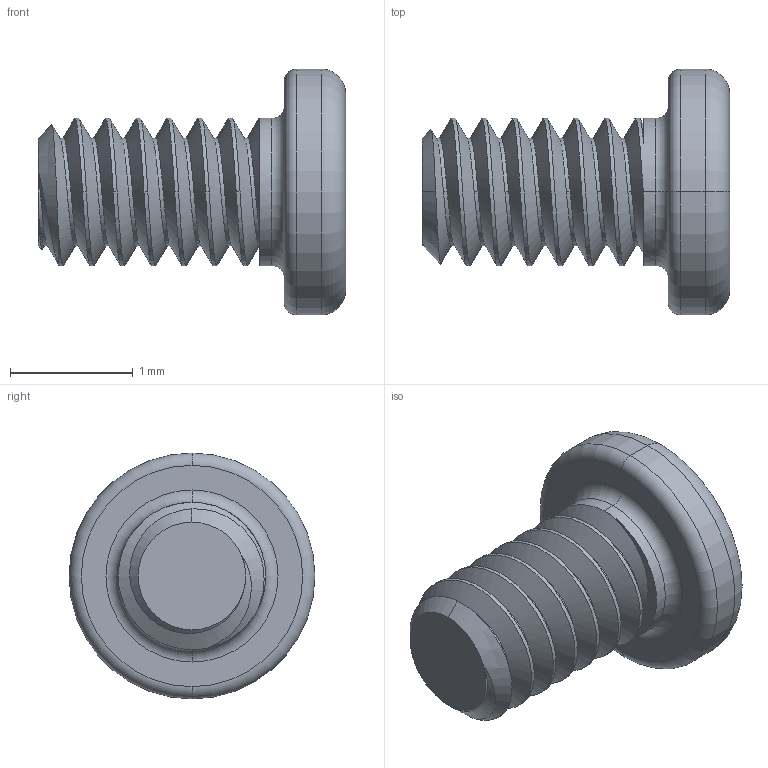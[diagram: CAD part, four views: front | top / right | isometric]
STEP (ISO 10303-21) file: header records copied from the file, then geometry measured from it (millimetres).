
FILE_DESCRIPTION (( 'STEP AP203' ), '1' );
FILE_NAME ('M12-20-M-SS-P-USMICROSCREW.STEP', '2014-12-29T22:47:58', ( '' ), ( '' ), 'SwSTEP 2.0', 'SolidWorks 2014', '' );
FILE_SCHEMA (( 'CONFIG_CONTROL_DESIGN' ));
Length unit declared in the file: millimetre
Products named in the file (1): M12-20-M-SS-P-USMICROSCREW
Bounding box: 2.5 x 2 x 2 mm (x, y, z)
Volume: 3 mm3; surface area: 20.7 mm2
Topology: 1 solids, 1 shells, 73 faces, 199 edges, 130 vertices
Faces by surface type: cylinder 44, plane 17, torus 6, cone 3, bspline 3
Entity records: 3810 total; most frequent: CARTESIAN_POINT 2103, ORIENTED_EDGE 398, DIRECTION 294, EDGE_CURVE 199, VERTEX_POINT 130, AXIS2_PLACEMENT_3D 106, LINE 82, VECTOR 82
